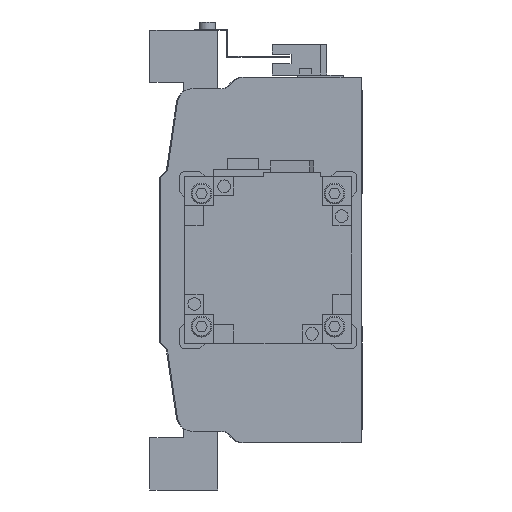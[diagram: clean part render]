
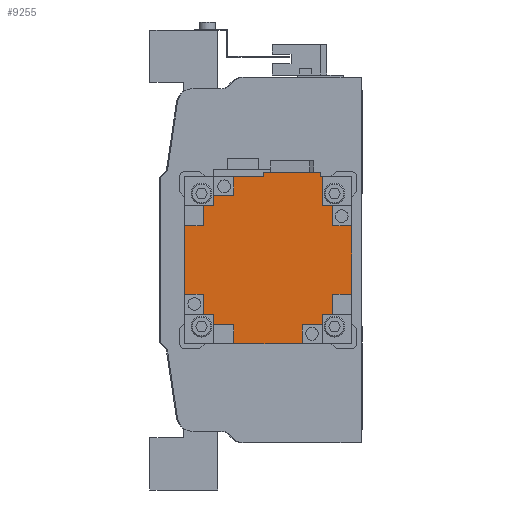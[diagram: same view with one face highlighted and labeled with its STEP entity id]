
A CAD part, left-side view. The second image highlights one B-rep face of the part: STEP entity #9255.
In plain terms, the highlighted planar face has unit normal (-1, 0, 0) as drawn and (0, 1, 0) by its records, which use the part's own axes.
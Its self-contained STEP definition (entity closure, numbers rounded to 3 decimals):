
#146=PLANE('',#9920);
#652=LINE('',#13694,#1703);
#661=LINE('',#13714,#1712);
#667=LINE('',#13726,#1718);
#670=LINE('',#13732,#1721);
#671=LINE('',#13735,#1722);
#672=LINE('',#13737,#1723);
#673=LINE('',#13739,#1724);
#674=LINE('',#13741,#1725);
#675=LINE('',#13743,#1726);
#676=LINE('',#13745,#1727);
#677=LINE('',#13747,#1728);
#678=LINE('',#13749,#1729);
#679=LINE('',#13751,#1730);
#680=LINE('',#13753,#1731);
#681=LINE('',#13755,#1732);
#682=LINE('',#13757,#1733);
#683=LINE('',#13759,#1734);
#684=LINE('',#13761,#1735);
#685=LINE('',#13763,#1736);
#686=LINE('',#13765,#1737);
#687=LINE('',#13767,#1738);
#688=LINE('',#13769,#1739);
#689=LINE('',#13771,#1740);
#690=LINE('',#13773,#1741);
#691=LINE('',#13774,#1742);
#692=LINE('',#13775,#1743);
#693=LINE('',#13776,#1744);
#694=LINE('',#13778,#1745);
#695=LINE('',#13780,#1746);
#696=LINE('',#13782,#1747);
#1703=VECTOR('',#11029,1000.);
#1712=VECTOR('',#11040,1000.);
#1718=VECTOR('',#11046,1000.);
#1721=VECTOR('',#11051,1000.);
#1722=VECTOR('',#11052,1000.);
#1723=VECTOR('',#11053,1000.);
#1724=VECTOR('',#11054,1000.);
#1725=VECTOR('',#11055,1000.);
#1726=VECTOR('',#11056,1000.);
#1727=VECTOR('',#11057,1000.);
#1728=VECTOR('',#11058,1000.);
#1729=VECTOR('',#11059,1000.);
#1730=VECTOR('',#11060,1000.);
#1731=VECTOR('',#11061,1000.);
#1732=VECTOR('',#11062,1000.);
#1733=VECTOR('',#11063,1000.);
#1734=VECTOR('',#11064,1000.);
#1735=VECTOR('',#11065,1000.);
#1736=VECTOR('',#11066,1000.);
#1737=VECTOR('',#11067,1000.);
#1738=VECTOR('',#11068,1000.);
#1739=VECTOR('',#11069,1000.);
#1740=VECTOR('',#11070,1000.);
#1741=VECTOR('',#11071,1000.);
#1742=VECTOR('',#11072,1000.);
#1743=VECTOR('',#11073,1000.);
#1744=VECTOR('',#11074,1000.);
#1745=VECTOR('',#11075,1000.);
#1746=VECTOR('',#11076,1000.);
#1747=VECTOR('',#11077,1000.);
#3041=ORIENTED_EDGE('',*,*,#5460,.T.);
#3042=ORIENTED_EDGE('',*,*,#5461,.T.);
#3043=ORIENTED_EDGE('',*,*,#5462,.T.);
#3044=ORIENTED_EDGE('',*,*,#5463,.T.);
#3045=ORIENTED_EDGE('',*,*,#5464,.T.);
#3046=ORIENTED_EDGE('',*,*,#5465,.F.);
#3047=ORIENTED_EDGE('',*,*,#5466,.F.);
#3048=ORIENTED_EDGE('',*,*,#5467,.T.);
#3049=ORIENTED_EDGE('',*,*,#5468,.T.);
#3050=ORIENTED_EDGE('',*,*,#5469,.T.);
#3051=ORIENTED_EDGE('',*,*,#5470,.T.);
#3052=ORIENTED_EDGE('',*,*,#5471,.T.);
#3053=ORIENTED_EDGE('',*,*,#5472,.F.);
#3054=ORIENTED_EDGE('',*,*,#5473,.F.);
#3055=ORIENTED_EDGE('',*,*,#5474,.T.);
#3056=ORIENTED_EDGE('',*,*,#5475,.T.);
#3057=ORIENTED_EDGE('',*,*,#5476,.T.);
#3058=ORIENTED_EDGE('',*,*,#5477,.T.);
#3059=ORIENTED_EDGE('',*,*,#5478,.T.);
#3060=ORIENTED_EDGE('',*,*,#5479,.F.);
#3061=ORIENTED_EDGE('',*,*,#5480,.F.);
#3062=ORIENTED_EDGE('',*,*,#5451,.T.);
#3063=ORIENTED_EDGE('',*,*,#5481,.F.);
#3064=ORIENTED_EDGE('',*,*,#5442,.F.);
#3065=ORIENTED_EDGE('',*,*,#5482,.T.);
#3066=ORIENTED_EDGE('',*,*,#5457,.T.);
#3067=ORIENTED_EDGE('',*,*,#5483,.T.);
#3068=ORIENTED_EDGE('',*,*,#5484,.T.);
#3069=ORIENTED_EDGE('',*,*,#5485,.F.);
#3070=ORIENTED_EDGE('',*,*,#5486,.F.);
#5442=EDGE_CURVE('',#6692,#6693,#652,.T.);
#5451=EDGE_CURVE('',#6702,#6700,#661,.T.);
#5457=EDGE_CURVE('',#6708,#6707,#667,.T.);
#5460=EDGE_CURVE('',#6710,#6711,#670,.T.);
#5461=EDGE_CURVE('',#6711,#6712,#671,.T.);
#5462=EDGE_CURVE('',#6712,#6713,#672,.T.);
#5463=EDGE_CURVE('',#6713,#6714,#673,.T.);
#5464=EDGE_CURVE('',#6714,#6715,#674,.T.);
#5465=EDGE_CURVE('',#6716,#6715,#675,.T.);
#5466=EDGE_CURVE('',#6717,#6716,#676,.T.);
#5467=EDGE_CURVE('',#6717,#6718,#677,.T.);
#5468=EDGE_CURVE('',#6718,#6719,#678,.T.);
#5469=EDGE_CURVE('',#6719,#6720,#679,.T.);
#5470=EDGE_CURVE('',#6720,#6721,#680,.T.);
#5471=EDGE_CURVE('',#6721,#6722,#681,.T.);
#5472=EDGE_CURVE('',#6723,#6722,#682,.T.);
#5473=EDGE_CURVE('',#6724,#6723,#683,.T.);
#5474=EDGE_CURVE('',#6724,#6725,#684,.T.);
#5475=EDGE_CURVE('',#6725,#6726,#685,.T.);
#5476=EDGE_CURVE('',#6726,#6727,#686,.T.);
#5477=EDGE_CURVE('',#6727,#6728,#687,.T.);
#5478=EDGE_CURVE('',#6728,#6729,#688,.T.);
#5479=EDGE_CURVE('',#6730,#6729,#689,.T.);
#5480=EDGE_CURVE('',#6702,#6730,#690,.T.);
#5481=EDGE_CURVE('',#6693,#6700,#691,.T.);
#5482=EDGE_CURVE('',#6692,#6708,#692,.T.);
#5483=EDGE_CURVE('',#6707,#6731,#693,.T.);
#5484=EDGE_CURVE('',#6731,#6732,#694,.T.);
#5485=EDGE_CURVE('',#6733,#6732,#695,.T.);
#5486=EDGE_CURVE('',#6710,#6733,#696,.T.);
#6692=VERTEX_POINT('',#13695);
#6693=VERTEX_POINT('',#13696);
#6700=VERTEX_POINT('',#13712);
#6702=VERTEX_POINT('',#13715);
#6707=VERTEX_POINT('',#13725);
#6708=VERTEX_POINT('',#13727);
#6710=VERTEX_POINT('',#13733);
#6711=VERTEX_POINT('',#13734);
#6712=VERTEX_POINT('',#13736);
#6713=VERTEX_POINT('',#13738);
#6714=VERTEX_POINT('',#13740);
#6715=VERTEX_POINT('',#13742);
#6716=VERTEX_POINT('',#13744);
#6717=VERTEX_POINT('',#13746);
#6718=VERTEX_POINT('',#13748);
#6719=VERTEX_POINT('',#13750);
#6720=VERTEX_POINT('',#13752);
#6721=VERTEX_POINT('',#13754);
#6722=VERTEX_POINT('',#13756);
#6723=VERTEX_POINT('',#13758);
#6724=VERTEX_POINT('',#13760);
#6725=VERTEX_POINT('',#13762);
#6726=VERTEX_POINT('',#13764);
#6727=VERTEX_POINT('',#13766);
#6728=VERTEX_POINT('',#13768);
#6729=VERTEX_POINT('',#13770);
#6730=VERTEX_POINT('',#13772);
#6731=VERTEX_POINT('',#13777);
#6732=VERTEX_POINT('',#13779);
#6733=VERTEX_POINT('',#13781);
#7805=EDGE_LOOP('',(#3041,#3042,#3043,#3044,#3045,#3046,#3047,#3048,#3049,
#3050,#3051,#3052,#3053,#3054,#3055,#3056,#3057,#3058,#3059,#3060,#3061,
#3062,#3063,#3064,#3065,#3066,#3067,#3068,#3069,#3070));
#8482=FACE_BOUND('',#7805,.T.);
#9255=ADVANCED_FACE('',(#8482),#146,.T.);
#9920=AXIS2_PLACEMENT_3D('',#13731,#11049,#11050);
#11029=DIRECTION('',(0.,0.,1.));
#11040=DIRECTION('',(0.,0.,-1.));
#11046=DIRECTION('',(0.,0.,-1.));
#11049=DIRECTION('',(0.,1.,0.));
#11050=DIRECTION('',(0.,0.,1.));
#11051=DIRECTION('',(-1.,0.,0.));
#11052=DIRECTION('',(0.,0.,-1.));
#11053=DIRECTION('',(-1.,0.,0.));
#11054=DIRECTION('',(0.,0.,1.));
#11055=DIRECTION('',(-1.,0.,0.));
#11056=DIRECTION('',(0.,0.,-1.));
#11057=DIRECTION('',(1.,0.,0.));
#11058=DIRECTION('',(0.,0.,1.));
#11059=DIRECTION('',(-1.,0.,0.));
#11060=DIRECTION('',(0.,0.,1.));
#11061=DIRECTION('',(1.,0.,0.));
#11062=DIRECTION('',(0.,0.,1.));
#11063=DIRECTION('',(-1.,0.,0.));
#11064=DIRECTION('',(0.,0.,-1.));
#11065=DIRECTION('',(1.,0.,0.));
#11066=DIRECTION('',(0.,0.,1.));
#11067=DIRECTION('',(1.,0.,0.));
#11068=DIRECTION('',(0.,0.,-1.));
#11069=DIRECTION('',(1.,0.,0.));
#11070=DIRECTION('',(0.,0.,1.));
#11071=DIRECTION('',(-1.,0.,0.));
#11072=DIRECTION('',(-1.,0.,0.));
#11073=DIRECTION('',(-1.,0.,0.));
#11074=DIRECTION('',(-1.,0.,0.));
#11075=DIRECTION('',(0.,0.,-1.));
#11076=DIRECTION('',(1.,0.,0.));
#11077=DIRECTION('',(0.,0.,1.));
#13694=CARTESIAN_POINT('',(42.,138.3,-2.2));
#13695=CARTESIAN_POINT('',(42.,138.3,-2.2));
#13696=CARTESIAN_POINT('',(42.,138.3,25.2));
#13712=CARTESIAN_POINT('',(39.95,138.3,25.2));
#13714=CARTESIAN_POINT('',(39.95,138.3,39.95));
#13715=CARTESIAN_POINT('',(39.95,138.3,25.95));
#13725=CARTESIAN_POINT('',(39.95,138.3,-16.35));
#13726=CARTESIAN_POINT('',(39.95,138.3,39.95));
#13727=CARTESIAN_POINT('',(39.95,138.3,-2.2));
#13731=CARTESIAN_POINT('',(0.,138.3,0.));
#13732=CARTESIAN_POINT('',(0.,138.3,-30.95));
#13733=CARTESIAN_POINT('',(25.95,138.3,-30.95));
#13734=CARTESIAN_POINT('',(16.35,138.3,-30.95));
#13735=CARTESIAN_POINT('',(16.35,138.3,0.));
#13736=CARTESIAN_POINT('',(16.35,138.3,-39.95));
#13737=CARTESIAN_POINT('',(39.95,138.3,-39.95));
#13738=CARTESIAN_POINT('',(-16.35,138.3,-39.95));
#13739=CARTESIAN_POINT('',(-16.35,138.3,0.));
#13740=CARTESIAN_POINT('',(-16.35,138.3,-30.95));
#13741=CARTESIAN_POINT('',(0.,138.3,-30.95));
#13742=CARTESIAN_POINT('',(-25.95,138.3,-30.95));
#13743=CARTESIAN_POINT('',(-25.95,138.3,0.));
#13744=CARTESIAN_POINT('',(-25.95,138.3,-25.95));
#13745=CARTESIAN_POINT('',(0.,138.3,-25.95));
#13746=CARTESIAN_POINT('',(-30.95,138.3,-25.95));
#13747=CARTESIAN_POINT('',(-30.95,138.3,0.));
#13748=CARTESIAN_POINT('',(-30.95,138.3,-16.35));
#13749=CARTESIAN_POINT('',(0.,138.3,-16.35));
#13750=CARTESIAN_POINT('',(-39.95,138.3,-16.35));
#13751=CARTESIAN_POINT('',(-39.95,138.3,-39.95));
#13752=CARTESIAN_POINT('',(-39.95,138.3,16.35));
#13753=CARTESIAN_POINT('',(0.,138.3,16.35));
#13754=CARTESIAN_POINT('',(-30.95,138.3,16.35));
#13755=CARTESIAN_POINT('',(-30.95,138.3,0.));
#13756=CARTESIAN_POINT('',(-30.95,138.3,25.95));
#13757=CARTESIAN_POINT('',(0.,138.3,25.95));
#13758=CARTESIAN_POINT('',(-25.95,138.3,25.95));
#13759=CARTESIAN_POINT('',(-25.95,138.3,0.));
#13760=CARTESIAN_POINT('',(-25.95,138.3,30.95));
#13761=CARTESIAN_POINT('',(0.,138.3,30.95));
#13762=CARTESIAN_POINT('',(-16.35,138.3,30.95));
#13763=CARTESIAN_POINT('',(-16.35,138.3,0.));
#13764=CARTESIAN_POINT('',(-16.35,138.3,39.95));
#13765=CARTESIAN_POINT('',(-39.95,138.3,39.95));
#13766=CARTESIAN_POINT('',(16.35,138.3,39.95));
#13767=CARTESIAN_POINT('',(16.35,138.3,0.));
#13768=CARTESIAN_POINT('',(16.35,138.3,30.95));
#13769=CARTESIAN_POINT('',(0.,138.3,30.95));
#13770=CARTESIAN_POINT('',(25.95,138.3,30.95));
#13771=CARTESIAN_POINT('',(25.95,138.3,0.));
#13772=CARTESIAN_POINT('',(25.95,138.3,25.95));
#13773=CARTESIAN_POINT('',(0.,138.3,25.95));
#13774=CARTESIAN_POINT('',(42.,138.3,25.2));
#13775=CARTESIAN_POINT('',(42.,138.3,-2.2));
#13776=CARTESIAN_POINT('',(0.,138.3,-16.35));
#13777=CARTESIAN_POINT('',(30.95,138.3,-16.35));
#13778=CARTESIAN_POINT('',(30.95,138.3,0.));
#13779=CARTESIAN_POINT('',(30.95,138.3,-25.95));
#13780=CARTESIAN_POINT('',(0.,138.3,-25.95));
#13781=CARTESIAN_POINT('',(25.95,138.3,-25.95));
#13782=CARTESIAN_POINT('',(25.95,138.3,0.));
